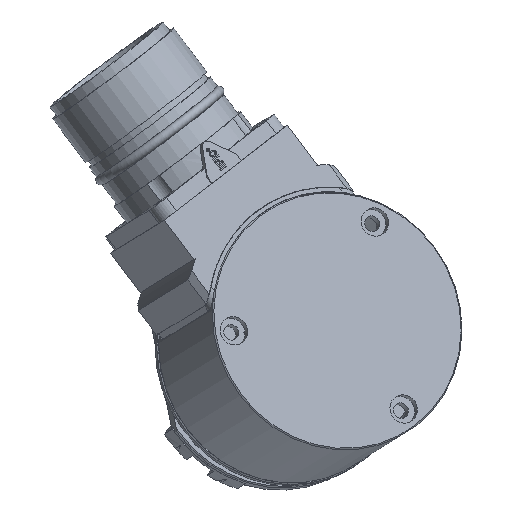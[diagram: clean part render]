
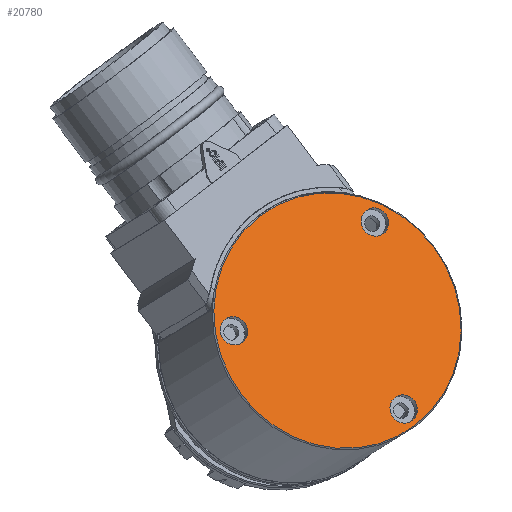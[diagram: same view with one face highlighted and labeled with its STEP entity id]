
A CAD part, top view. The second image highlights one B-rep face of the part: STEP entity #20780.
In plain terms, the highlighted planar face has unit normal (0.315, 0.192, 0.93) as drawn and (0, 0, -1) by its records, which use the part's own axes.
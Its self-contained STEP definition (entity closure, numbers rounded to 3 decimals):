
#1105=FACE_BOUND('',#7084,.T.);
#1106=FACE_BOUND('',#7085,.T.);
#1107=FACE_BOUND('',#7086,.T.);
#1331=PLANE('',#22759);
#5765=FACE_OUTER_BOUND('',#7083,.T.);
#7083=EDGE_LOOP('',(#15282));
#7084=EDGE_LOOP('',(#15283,#15284));
#7085=EDGE_LOOP('',(#15285,#15286));
#7086=EDGE_LOOP('',(#15287,#15288));
#8615=CIRCLE('',#22753,19.8);
#8620=CIRCLE('',#22760,2.2);
#8621=CIRCLE('',#22761,2.2);
#8622=CIRCLE('',#22762,2.2);
#8623=CIRCLE('',#22763,2.2);
#8624=CIRCLE('',#22764,2.2);
#8625=CIRCLE('',#22765,2.2);
#9965=VERTEX_POINT('',#32832);
#9973=VERTEX_POINT('',#32888);
#9974=VERTEX_POINT('',#32889);
#9975=VERTEX_POINT('',#32892);
#9976=VERTEX_POINT('',#32893);
#9977=VERTEX_POINT('',#32896);
#9978=VERTEX_POINT('',#32897);
#12099=EDGE_CURVE('',#9965,#9965,#8615,.T.);
#12109=EDGE_CURVE('',#9973,#9974,#8620,.T.);
#12110=EDGE_CURVE('',#9974,#9973,#8621,.T.);
#12111=EDGE_CURVE('',#9975,#9976,#8622,.T.);
#12112=EDGE_CURVE('',#9976,#9975,#8623,.T.);
#12113=EDGE_CURVE('',#9977,#9978,#8624,.T.);
#12114=EDGE_CURVE('',#9978,#9977,#8625,.T.);
#15282=ORIENTED_EDGE('',*,*,#12099,.F.);
#15283=ORIENTED_EDGE('',*,*,#12109,.T.);
#15284=ORIENTED_EDGE('',*,*,#12110,.T.);
#15285=ORIENTED_EDGE('',*,*,#12111,.T.);
#15286=ORIENTED_EDGE('',*,*,#12112,.T.);
#15287=ORIENTED_EDGE('',*,*,#12113,.T.);
#15288=ORIENTED_EDGE('',*,*,#12114,.T.);
#20780=ADVANCED_FACE('',(#5765,#1105,#1106,#1107),#1331,.F.);
#22753=AXIS2_PLACEMENT_3D('',#32833,#25690,#25691);
#22759=AXIS2_PLACEMENT_3D('',#32887,#25704,#25705);
#22760=AXIS2_PLACEMENT_3D('',#32890,#25706,#25707);
#22761=AXIS2_PLACEMENT_3D('',#32891,#25708,#25709);
#22762=AXIS2_PLACEMENT_3D('',#32894,#25710,#25711);
#22763=AXIS2_PLACEMENT_3D('',#32895,#25712,#25713);
#22764=AXIS2_PLACEMENT_3D('',#32898,#25714,#25715);
#22765=AXIS2_PLACEMENT_3D('',#32899,#25716,#25717);
#25690=DIRECTION('center_axis',(0.,0.,1.));
#25691=DIRECTION('ref_axis',(-1.,0.,0.));
#25704=DIRECTION('center_axis',(0.,0.,1.));
#25705=DIRECTION('ref_axis',(1.,0.,0.));
#25706=DIRECTION('center_axis',(0.,0.,1.));
#25707=DIRECTION('ref_axis',(-1.,0.,0.));
#25708=DIRECTION('center_axis',(0.,0.,1.));
#25709=DIRECTION('ref_axis',(-1.,0.,0.));
#25710=DIRECTION('center_axis',(0.,0.,1.));
#25711=DIRECTION('ref_axis',(-1.,0.,0.));
#25712=DIRECTION('center_axis',(0.,0.,1.));
#25713=DIRECTION('ref_axis',(-1.,0.,0.));
#25714=DIRECTION('center_axis',(0.,0.,1.));
#25715=DIRECTION('ref_axis',(-1.,0.,0.));
#25716=DIRECTION('center_axis',(0.,0.,1.));
#25717=DIRECTION('ref_axis',(-1.,0.,0.));
#32832=CARTESIAN_POINT('',(19.8,0.,-26.));
#32833=CARTESIAN_POINT('Origin',(0.,0.,-26.));
#32887=CARTESIAN_POINT('Origin',(0.,0.,-26.));
#32888=CARTESIAN_POINT('',(12.343,8.397,-26.));
#32889=CARTESIAN_POINT('',(16.743,8.397,-26.));
#32890=CARTESIAN_POINT('Origin',(14.543,8.397,-26.));
#32891=CARTESIAN_POINT('Origin',(14.543,8.397,-26.));
#32892=CARTESIAN_POINT('',(-2.2,-16.793,-26.));
#32893=CARTESIAN_POINT('',(2.2,-16.793,-26.));
#32894=CARTESIAN_POINT('Origin',(0.,-16.793,-26.));
#32895=CARTESIAN_POINT('Origin',(0.,-16.793,-26.));
#32896=CARTESIAN_POINT('',(-16.743,8.397,-26.));
#32897=CARTESIAN_POINT('',(-12.343,8.397,-26.));
#32898=CARTESIAN_POINT('Origin',(-14.543,8.397,-26.));
#32899=CARTESIAN_POINT('Origin',(-14.543,8.397,-26.));
